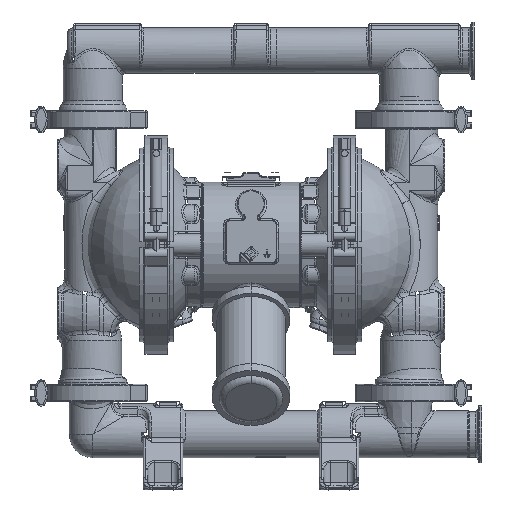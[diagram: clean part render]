
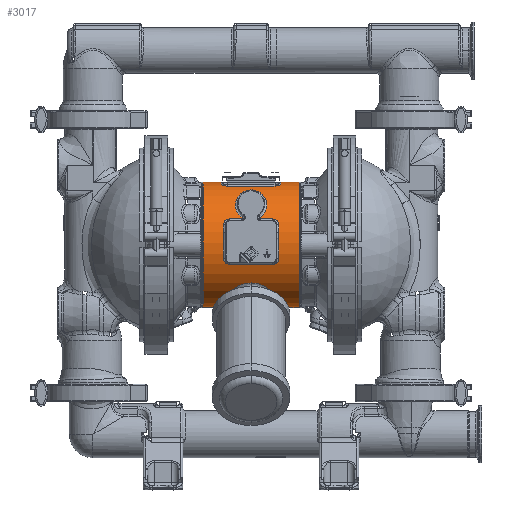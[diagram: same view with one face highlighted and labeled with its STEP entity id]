
A CAD part, top view. The second image highlights one B-rep face of the part: STEP entity #3017.
In plain terms, the highlighted cylindrical face has radius 69.85 mm (diameter 139.7 mm), a partial arc.
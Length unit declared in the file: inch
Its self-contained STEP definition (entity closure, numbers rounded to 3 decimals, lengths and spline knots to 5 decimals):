
#1=DIRECTION('',(-1.,0.,0.));
#2=VECTOR('',#1,2.1);
#3=CARTESIAN_POINT('',(1.05,1.1865,-2.48087));
#4=LINE('',#3,#2);
#601=DIRECTION('',(1.,0.,0.));
#602=VECTOR('',#601,0.795);
#603=CARTESIAN_POINT('',(1.31,2.75,0.));
#604=LINE('',#603,#602);
#623=DIRECTION('',(1.,0.,0.));
#624=VECTOR('',#623,0.795);
#625=CARTESIAN_POINT('',(-2.105,2.75,0.));
#626=LINE('',#625,#624);
#1227=CARTESIAN_POINT('',(-1.31,2.64162,-0.76444));
#1229=CARTESIAN_POINT('',(-1.31,0.,0.));
#1230=DIRECTION('',(-1.,0.,0.));
#1231=DIRECTION('',(0.,0.961,-0.278));
#1232=AXIS2_PLACEMENT_3D('',#1229,#1230,#1231);
#1260=CARTESIAN_POINT('',(-1.31,1.61417,
-2.22642));
#1261=CARTESIAN_POINT('',(-1.31,1.59144,
-2.2429));
#1262=CARTESIAN_POINT('',(-1.30677,1.54774,
-2.27352));
#1263=CARTESIAN_POINT('',(-1.29563,1.48834,
-2.31276));
#1264=CARTESIAN_POINT('',(-1.28015,1.43434,
-2.34657));
#1265=CARTESIAN_POINT('',(-1.26151,1.38558,
-2.37563));
#1266=CARTESIAN_POINT('',(-1.24047,1.34181,
-2.40058));
#1267=CARTESIAN_POINT('',(-1.21742,1.30287,
-2.4219));
#1268=CARTESIAN_POINT('',(-1.1926,1.26881,
-2.43989));
#1269=CARTESIAN_POINT('',(-1.16609,1.23975,
-2.45475));
#1270=CARTESIAN_POINT('',(-1.13794,1.21615,
-2.4665));
#1271=CARTESIAN_POINT('',(-1.10831,1.19868,
-2.47502));
#1272=CARTESIAN_POINT('',(-1.07806,1.18849,
-2.47992));
#1273=CARTESIAN_POINT('',(-1.05923,1.18649,
-2.48088));
#1274=CARTESIAN_POINT('',(-1.05,1.1865,
-2.48087));
#1302=CARTESIAN_POINT('',(1.05,1.1865,-2.48087));
#1303=CARTESIAN_POINT('',(1.05923,1.18649,-2.48088));
#1304=CARTESIAN_POINT('',(1.07806,1.18849,-2.47992));
#1305=CARTESIAN_POINT('',(1.10831,1.19868,-2.47502));
#1306=CARTESIAN_POINT('',(1.13794,1.21615,-2.4665));
#1307=CARTESIAN_POINT('',(1.16609,1.23975,-2.45475));
#1308=CARTESIAN_POINT('',(1.1926,1.26881,-2.43989));
#1309=CARTESIAN_POINT('',(1.21742,1.30287,-2.4219));
#1310=CARTESIAN_POINT('',(1.24047,1.34181,-2.40058));
#1311=CARTESIAN_POINT('',(1.26151,1.38558,-2.37563));
#1312=CARTESIAN_POINT('',(1.28015,1.43434,-2.34657));
#1313=CARTESIAN_POINT('',(1.29563,1.48834,-2.31276));
#1314=CARTESIAN_POINT('',(1.30677,1.54774,-2.27352));
#1315=CARTESIAN_POINT('',(1.31,1.59144,-2.2429));
#1316=CARTESIAN_POINT('',(1.31,1.61417,-2.22642));
#1318=CARTESIAN_POINT('',(1.31,2.64162,-0.76444));
#1341=CARTESIAN_POINT('',(1.31,0.,0.));
#1342=DIRECTION('',(1.,0.,0.));
#1343=DIRECTION('',(0.,0.587,-0.81));
#1344=AXIS2_PLACEMENT_3D('',#1341,#1342,#1343);
#1356=CARTESIAN_POINT('',(-1.31,0.,0.));
#1357=DIRECTION('',(-1.,0.,0.));
#1358=DIRECTION('',(0.,0.968,0.249));
#1359=AXIS2_PLACEMENT_3D('',#1356,#1357,#1358);
#1377=CARTESIAN_POINT('',(-1.05,2.58454,
0.9395));
#1378=CARTESIAN_POINT('',(-1.06915,2.58454,
0.9395));
#1379=CARTESIAN_POINT('',(-1.10657,2.586,
0.93549));
#1380=CARTESIAN_POINT('',(-1.16145,2.59256,
0.91726));
#1381=CARTESIAN_POINT('',(-1.21094,2.60291,
0.88759));
#1382=CARTESIAN_POINT('',(-1.25313,2.61634,
0.84735));
#1383=CARTESIAN_POINT('',(-1.28546,2.63179,
0.79825));
#1384=CARTESIAN_POINT('',(-1.30566,2.64816,
0.74224));
#1385=CARTESIAN_POINT('',(-1.31,2.65832,
0.70442));
#1386=CARTESIAN_POINT('',(-1.31,2.66331,
0.68505));
#1397=DIRECTION('',(-1.,0.,0.));
#1398=VECTOR('',#1397,2.1);
#1399=CARTESIAN_POINT('',(1.05,2.58454,0.9395));
#1400=LINE('',#1399,#1398);
#1417=CARTESIAN_POINT('',(1.31,2.66331,0.68505));
#1418=CARTESIAN_POINT('',(1.31,2.65832,0.70442));
#1419=CARTESIAN_POINT('',(1.30566,2.64816,0.74224));
#1420=CARTESIAN_POINT('',(1.28546,2.63179,0.79825));
#1421=CARTESIAN_POINT('',(1.25313,2.61634,0.84735));
#1422=CARTESIAN_POINT('',(1.21094,2.60291,0.88759));
#1423=CARTESIAN_POINT('',(1.16145,2.59256,0.91726));
#1424=CARTESIAN_POINT('',(1.10657,2.586,0.93549));
#1425=CARTESIAN_POINT('',(1.06915,2.58454,0.9395));
#1426=CARTESIAN_POINT('',(1.05,2.58454,0.9395));
#1428=CARTESIAN_POINT('',(1.31,0.,0.));
#1429=DIRECTION('',(1.,0.,0.));
#1430=DIRECTION('',(0.,1.,0.));
#1431=AXIS2_PLACEMENT_3D('',#1428,#1429,#1430);
#1492=CARTESIAN_POINT('',(-1.31,2.75,0.));
#1531=CARTESIAN_POINT('',(1.31,2.75,0.));
#1617=DIRECTION('',(1.,0.,0.));
#1618=VECTOR('',#1617,0.795);
#1619=CARTESIAN_POINT('',(-2.105,2.64162,-0.76444));
#1620=LINE('',#1619,#1618);
#1644=DIRECTION('',(1.,0.,0.));
#1645=VECTOR('',#1644,0.795);
#1646=CARTESIAN_POINT('',(1.31,2.64162,-0.76444));
#1647=LINE('',#1646,#1645);
#2386=CARTESIAN_POINT('',(-2.105,0.,0.));
#2387=DIRECTION('',(1.,0.,0.));
#2388=DIRECTION('',(0.,1.,0.));
#2389=AXIS2_PLACEMENT_3D('',#2386,#2387,#2388);
#2401=CARTESIAN_POINT('',(2.105,0.,0.));
#2402=DIRECTION('',(-1.,0.,0.));
#2403=DIRECTION('',(0.,0.961,-0.278));
#2404=AXIS2_PLACEMENT_3D('',#2401,#2402,#2403);
#2530=VERTEX_POINT('',#1302);
#2531=VERTEX_POINT('',#1316);
#2534=CARTESIAN_POINT('',(-1.05,1.1865,
-2.48087));
#2535=VERTEX_POINT('',#2534);
#2537=VERTEX_POINT('',#1260);
#2540=VERTEX_POINT('',#1377);
#2541=VERTEX_POINT('',#1386);
#2544=CARTESIAN_POINT('',(1.05,2.58454,0.9395));
#2545=VERTEX_POINT('',#2544);
#2547=VERTEX_POINT('',#1417);
#2565=VERTEX_POINT('',#1492);
#2587=VERTEX_POINT('',#1531);
#2596=VERTEX_POINT('',#1227);
#2600=VERTEX_POINT('',#1318);
#2909=CARTESIAN_POINT('',(-2.105,2.75,0.));
#2911=VERTEX_POINT('',#2909);
#2912=CARTESIAN_POINT('',(-2.105,2.64162,-0.76444));
#2913=VERTEX_POINT('',#2912);
#2925=CARTESIAN_POINT('',(2.105,2.64162,-0.76444));
#2926=VERTEX_POINT('',#2925);
#2927=CARTESIAN_POINT('',(2.105,2.75,0.));
#2928=VERTEX_POINT('',#2927);
#2978=CARTESIAN_POINT('',(-2.155,0.,0.));
#2979=DIRECTION('',(1.,0.,0.));
#2980=DIRECTION('',(0.,0.,-1.));
#2981=AXIS2_PLACEMENT_3D('',#2978,#2979,#2980);
#2982=CYLINDRICAL_SURFACE('',#2981,2.75);
#2984=ORIENTED_EDGE('',*,*,#2983,.F.);
#2986=ORIENTED_EDGE('',*,*,#2985,.T.);
#2988=ORIENTED_EDGE('',*,*,#2987,.F.);
#2990=ORIENTED_EDGE('',*,*,#2989,.F.);
#2992=ORIENTED_EDGE('',*,*,#2991,.F.);
#2994=ORIENTED_EDGE('',*,*,#2993,.F.);
#2996=ORIENTED_EDGE('',*,*,#2995,.F.);
#2998=ORIENTED_EDGE('',*,*,#2997,.T.);
#3000=ORIENTED_EDGE('',*,*,#2999,.F.);
#3002=ORIENTED_EDGE('',*,*,#3001,.F.);
#3004=ORIENTED_EDGE('',*,*,#3003,.F.);
#3006=ORIENTED_EDGE('',*,*,#3005,.F.);
#3008=ORIENTED_EDGE('',*,*,#3007,.T.);
#3010=ORIENTED_EDGE('',*,*,#3009,.F.);
#3012=ORIENTED_EDGE('',*,*,#3011,.F.);
#3014=ORIENTED_EDGE('',*,*,#3013,.F.);
#3015=EDGE_LOOP('',(#2984,#2986,#2988,#2990,#2992,#2994,#2996,#2998,#3000,#3002,
#3004,#3006,#3008,#3010,#3012,#3014));
#3016=FACE_OUTER_BOUND('',#3015,.F.);
#3017=ADVANCED_FACE('',(#3016),#2982,.T.);
#1233=CIRCLE('',#1232,2.75);
#1275=B_SPLINE_CURVE_WITH_KNOTS('',3,(#1260,#1261,#1262,#1263,#1264,#1265,#1266,
#1267,#1268,#1269,#1270,#1271,#1272,#1273,#1274),.UNSPECIFIED.,.F.,.F.,(4,1,1,1,
1,1,1,1,1,1,1,1,4),(0.,0.08333,0.16667,0.25,
0.33333,0.41667,0.5,0.58333,0.66667,
0.75,0.83333,0.91667,1.),.UNSPECIFIED.);
#1317=B_SPLINE_CURVE_WITH_KNOTS('',3,(#1302,#1303,#1304,#1305,#1306,#1307,#1308,
#1309,#1310,#1311,#1312,#1313,#1314,#1315,#1316),.UNSPECIFIED.,.F.,.F.,(4,1,1,1,
1,1,1,1,1,1,1,1,4),(0.,0.08333,0.16667,0.25,
0.33333,0.41667,0.5,0.58333,0.66667,
0.75,0.83333,0.91667,1.),.UNSPECIFIED.);
#1345=CIRCLE('',#1344,2.75);
#1360=CIRCLE('',#1359,2.75);
#1387=B_SPLINE_CURVE_WITH_KNOTS('',3,(#1377,#1378,#1379,#1380,#1381,#1382,#1383,
#1384,#1385,#1386),.UNSPECIFIED.,.F.,.F.,(4,1,1,1,1,1,1,4),(0.,
0.14286,0.28571,0.42857,0.57143,
0.71429,0.85714,1.),.UNSPECIFIED.);
#1427=B_SPLINE_CURVE_WITH_KNOTS('',3,(#1417,#1418,#1419,#1420,#1421,#1422,#1423,
#1424,#1425,#1426),.UNSPECIFIED.,.F.,.F.,(4,1,1,1,1,1,1,4),(0.,
0.14286,0.28571,0.42857,0.57143,
0.71429,0.85714,1.),.UNSPECIFIED.);
#1432=CIRCLE('',#1431,2.75);
#2390=CIRCLE('',#2389,2.75);
#2405=CIRCLE('',#2404,2.75);
#2983=EDGE_CURVE('',#2911,#2913,#2390,.T.);
#2985=EDGE_CURVE('',#2911,#2565,#626,.T.);
#2987=EDGE_CURVE('',#2541,#2565,#1360,.T.);
#2989=EDGE_CURVE('',#2540,#2541,#1387,.T.);
#2991=EDGE_CURVE('',#2545,#2540,#1400,.T.);
#2993=EDGE_CURVE('',#2547,#2545,#1427,.T.);
#2995=EDGE_CURVE('',#2587,#2547,#1432,.T.);
#2997=EDGE_CURVE('',#2587,#2928,#604,.T.);
#2999=EDGE_CURVE('',#2926,#2928,#2405,.T.);
#3001=EDGE_CURVE('',#2600,#2926,#1647,.T.);
#3003=EDGE_CURVE('',#2531,#2600,#1345,.T.);
#3005=EDGE_CURVE('',#2530,#2531,#1317,.T.);
#3007=EDGE_CURVE('',#2530,#2535,#4,.T.);
#3009=EDGE_CURVE('',#2537,#2535,#1275,.T.);
#3011=EDGE_CURVE('',#2596,#2537,#1233,.T.);
#3013=EDGE_CURVE('',#2913,#2596,#1620,.T.);
